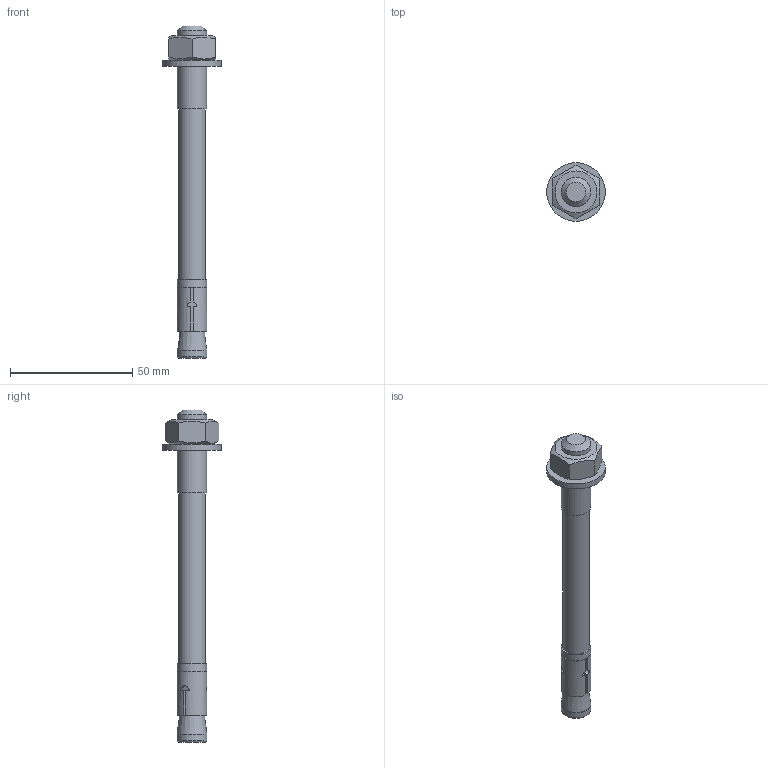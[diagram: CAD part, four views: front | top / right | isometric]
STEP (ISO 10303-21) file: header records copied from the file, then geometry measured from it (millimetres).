
FILE_DESCRIPTION((''),'2;1');
FILE_NAME('C:\Documents and Settings\Administrator\My Documents\Andys Backup Data\ANDY''S INVENTOR\INVENTOR LIBRARIES\MINITEC INVENTOR LIBRARIES\FEET WHEELS FLOOR FASTENING SUPPORTS\A PACKED FILES\STEP FILES\21.1115 FLOOR ANCHOR 12.stp','2010-06-28T08:17:24',('Administrator'),(''),'Autodesk Inventor 2009','Autodesk Inventor 2009','');
FILE_SCHEMA(('CONFIG_CONTROL_DESIGN'));
Length unit declared in the file: millimetre
Products named in the file (4): 21.1115 FLOOR ANCHOR 12; WASHER M12 DIN 125-1A; M12 HEX NUT DIN 934
Assembly tree (3 placements, depth 2):
  21.1115 FLOOR ANCHOR 12
    21.1115 FLOOR ANCHOR 12
    WASHER M12 DIN 125-1A
    M12 HEX NUT DIN 934
Bounding box: 24 x 24 x 136 mm (x, y, z)
Volume: 16959.1 mm3; surface area: 7565.6 mm2
Topology: 3 solids, 3 shells, 59 faces, 138 edges, 87 vertices
Faces by surface type: plane 39, cylinder 11, cone 6, torus 2, bspline 1
Full cylindrical faces by diameter (mm): 11 x1, 12 x2, 12.179 x1, 13 x1, 24 x1
Entity records: 1769 total; most frequent: CARTESIAN_POINT 395, DIRECTION 276, ORIENTED_EDGE 240, EDGE_CURVE 120, AXIS2_PLACEMENT_3D 107, VERTEX_POINT 84, EDGE_LOOP 80, VECTOR 62
